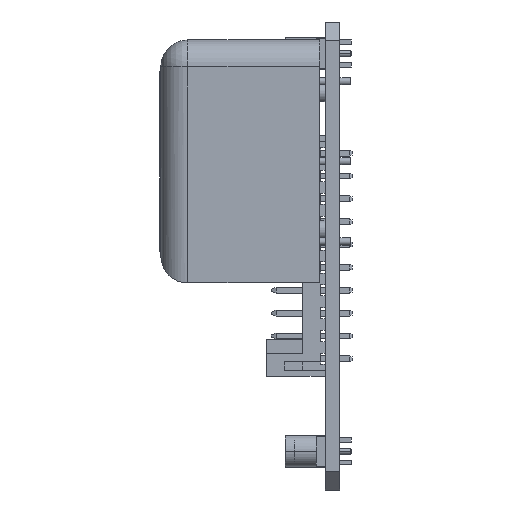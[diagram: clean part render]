
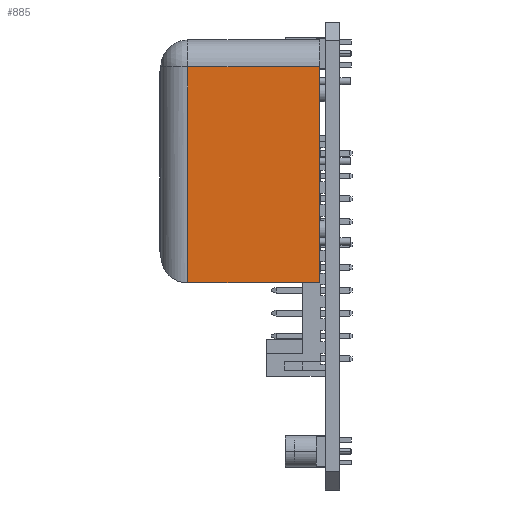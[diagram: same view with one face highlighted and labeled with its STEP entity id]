
A CAD part, left-side view. The second image highlights one B-rep face of the part: STEP entity #885.
In plain terms, the highlighted planar face has unit normal (-1, 0, 0).
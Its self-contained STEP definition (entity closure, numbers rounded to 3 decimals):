
#885=ADVANCED_FACE('',(#7264),#7263,.F.);
#7263=PLANE('',#10912);
#7264=FACE_OUTER_BOUND('',#10913,.T.);
#10909=CARTESIAN_POINT('',(-100.068,3.79,9.52));
#10910=DIRECTION('',(1.,0.,0.));
#10911=DIRECTION('',(0.,1.,0.));
#10912=AXIS2_PLACEMENT_3D('',#10909,#10910,#10911);
#10913=EDGE_LOOP('',(#14113,#14114,#14115,#14116));
#14113=ORIENTED_EDGE('',*,*,#15775,.T.);
#14114=ORIENTED_EDGE('',*,*,#15774,.T.);
#14115=ORIENTED_EDGE('',*,*,#15776,.F.);
#14116=ORIENTED_EDGE('',*,*,#15777,.F.);
#15774=EDGE_CURVE('',#25781,#25761,#25795,.T.);
#15775=EDGE_CURVE('',#25801,#25781,#25802,.T.);
#15776=EDGE_CURVE('',#25808,#25761,#25809,.T.);
#15777=EDGE_CURVE('',#25801,#25808,#25815,.T.);
#25761=VERTEX_POINT('',#31793);
#25781=VERTEX_POINT('',#31804);
#25795=LINE('',#31813,#31814);
#25801=VERTEX_POINT('',#31816);
#25802=LINE('',#31817,#31818);
#25808=VERTEX_POINT('',#31820);
#25809=LINE('',#31821,#31822);
#25815=LINE('',#31824,#31825);
#31793=CARTESIAN_POINT('',(-100.068,19.85,11.92));
#31804=CARTESIAN_POINT('',(-100.068,19.85,35.92));
#31813=CARTESIAN_POINT('',(-100.068,19.85,35.92));
#31814=VECTOR('',#31815,24.);
#31815=DIRECTION('',(0.,0.,-1.));
#31816=CARTESIAN_POINT('',(-100.068,5.25,35.92));
#31817=CARTESIAN_POINT('',(-100.068,5.25,35.92));
#31818=VECTOR('',#31819,14.6);
#31819=DIRECTION('',(0.,1.,0.));
#31820=CARTESIAN_POINT('',(-100.068,5.25,11.92));
#31821=CARTESIAN_POINT('',(-100.068,5.25,11.92));
#31822=VECTOR('',#31823,14.6);
#31823=DIRECTION('',(0.,1.,0.));
#31824=CARTESIAN_POINT('',(-100.068,5.25,35.92));
#31825=VECTOR('',#31826,24.);
#31826=DIRECTION('',(0.,0.,-1.));
